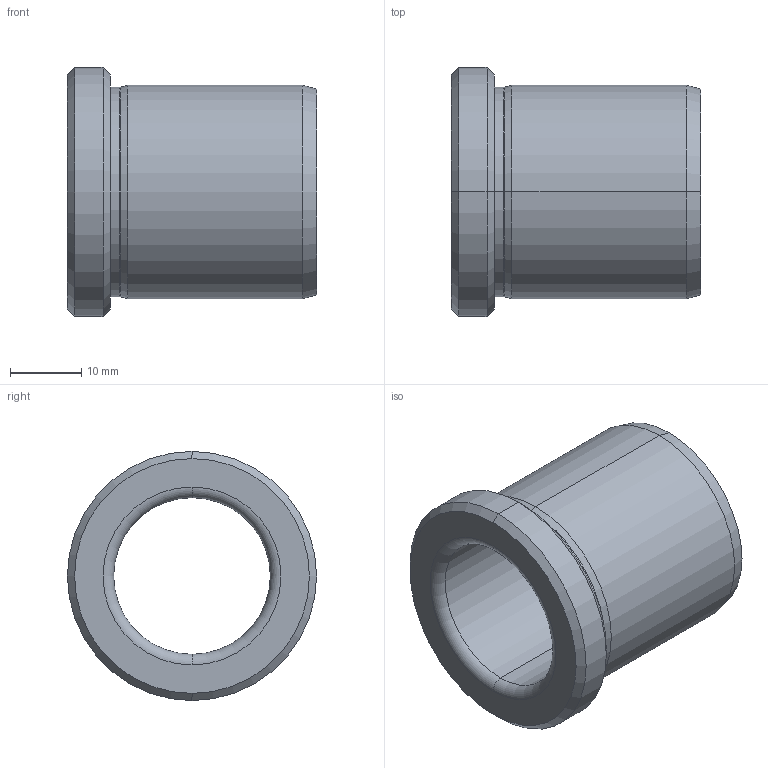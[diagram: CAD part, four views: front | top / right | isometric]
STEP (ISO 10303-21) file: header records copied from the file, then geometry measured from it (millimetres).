
FILE_DESCRIPTION (( 'STEP AP214' ), '1' );
FILE_NAME ('BRCVBG-22x35.STEP', '2020-07-21T12:14:46', ( '' ), ( '' ), 'SwSTEP 2.0', 'SolidWorks 2018', '' );
FILE_SCHEMA (( 'AUTOMOTIVE_DESIGN' ));
Length unit declared in the file: millimetre
Products named in the file (1): BRCVBG-22x35
Bounding box: 35 x 35 x 35 mm (x, y, z)
Volume: 12720.5 mm3; surface area: 6782.5 mm2
Topology: 1 solids, 1 shells, 23 faces, 46 edges, 26 vertices
Faces by surface type: cone 8, cylinder 8, torus 4, plane 3
Entity records: 636 total; most frequent: DIRECTION 124, CARTESIAN_POINT 96, ORIENTED_EDGE 92, AXIS2_PLACEMENT_3D 54, EDGE_CURVE 46, CIRCLE 30, EDGE_LOOP 26, VERTEX_POINT 26
